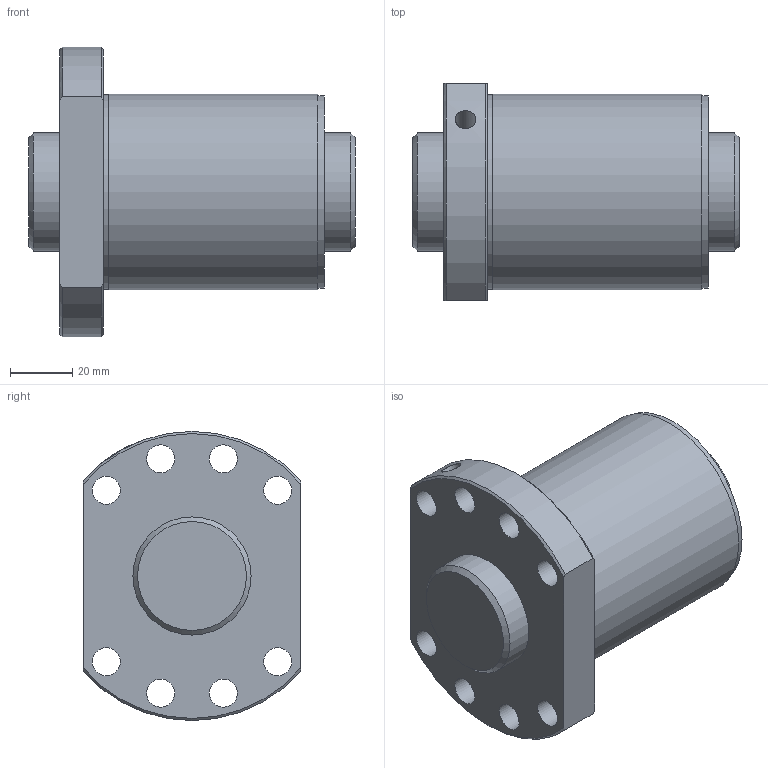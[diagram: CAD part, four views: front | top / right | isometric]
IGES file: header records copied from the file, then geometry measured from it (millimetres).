
Start section: Data from Parasolid IGES Translator 26.0.171, Copyright(c) 2006 Siemens PLM Software. All Rights Reserved.
Global section: file name: SDA3840V-2G0+105LC0(0G000).igs; native system: By Siemens PLM Incorporated; preprocessor: XPlus GENERIC/IGES 26.0.171; author: Noname; organization: Noname; date: 20240528.114154; units: millimetre
Bounding box: 105 x 70 x 93 mm (x, y, z)
Surface area: 54683.8 mm2 (no closed solid volume)
Topology: 0 solids, 0 shells, 33 faces, 154 edges, 128 vertices
Faces by surface type: revolution 24, extrusion 9
